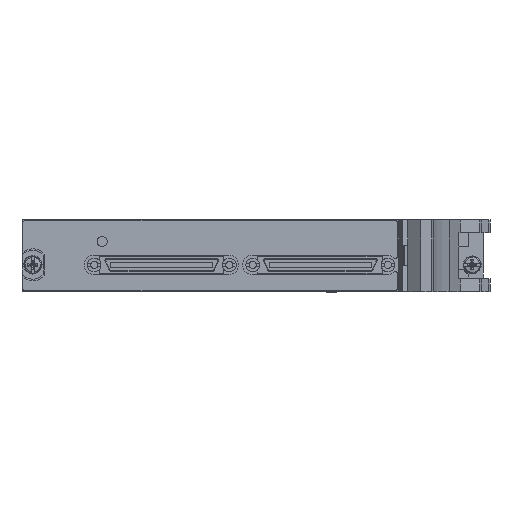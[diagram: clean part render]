
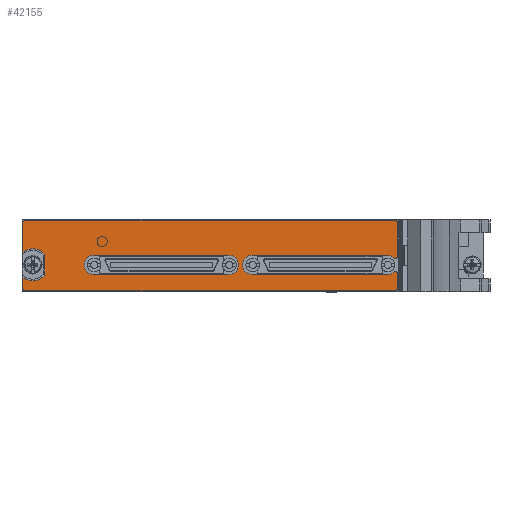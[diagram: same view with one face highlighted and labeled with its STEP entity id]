
A CAD part, left-side view. The second image highlights one B-rep face of the part: STEP entity #42155.
In plain terms, the highlighted planar face has unit normal (-1, 0, 0).
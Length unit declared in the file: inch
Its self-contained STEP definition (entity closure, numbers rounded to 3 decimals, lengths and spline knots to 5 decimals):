
#12530=CARTESIAN_POINT('',(-0.215,-3.53769,0.11025));
#12531=DIRECTION('',(-1.,0.,0.));
#12532=DIRECTION('',(0.,-1.,0.));
#12533=AXIS2_PLACEMENT_3D('',#12530,#12531,#12532);
#12535=DIRECTION('',(0.,0.,1.));
#12536=VECTOR('',#12535,0.17325);
#12537=CARTESIAN_POINT('',(-0.215,-3.55769,-0.063));
#12538=LINE('',#12537,#12536);
#12539=CARTESIAN_POINT('',(-0.215,-3.53769,-0.063));
#12540=DIRECTION('',(-1.,0.,0.));
#12541=DIRECTION('',(0.,0.,-1.));
#12542=AXIS2_PLACEMENT_3D('',#12539,#12540,#12541);
#12544=DIRECTION('',(0.,-1.,0.));
#12545=VECTOR('',#12544,4.07);
#12546=CARTESIAN_POINT('',(-0.215,0.53231,-0.083));
#12547=LINE('',#12546,#12545);
#12548=CARTESIAN_POINT('',(-0.215,0.53231,-0.063));
#12549=DIRECTION('',(-1.,0.,0.));
#12550=DIRECTION('',(0.,1.,0.));
#12551=AXIS2_PLACEMENT_3D('',#12548,#12549,#12550);
#12553=DIRECTION('',(0.,0.,-1.));
#12554=VECTOR('',#12553,0.1263);
#12555=CARTESIAN_POINT('',(-0.215,0.55231,0.0633));
#12556=LINE('',#12555,#12554);
#12557=CARTESIAN_POINT('',(-0.215,0.44431,0.201));
#12558=DIRECTION('',(1.,0.,0.));
#12559=DIRECTION('',(0.,-0.76,-0.65));
#12560=AXIS2_PLACEMENT_3D('',#12557,#12558,#12559);
#12562=DIRECTION('',(0.,0.,-1.));
#12563=VECTOR('',#12562,0.22747);
#12564=CARTESIAN_POINT('',(-0.215,0.31131,0.31474));
#12565=LINE('',#12564,#12563);
#12566=CARTESIAN_POINT('',(-0.215,0.44431,0.201));
#12567=DIRECTION('',(1.,0.,0.));
#12568=DIRECTION('',(0.,0.617,0.787));
#12569=AXIS2_PLACEMENT_3D('',#12566,#12567,#12568);
#12571=DIRECTION('',(0.,0.,-1.));
#12572=VECTOR('',#12571,0.3263);
#12573=CARTESIAN_POINT('',(-0.215,0.55231,0.665));
#12574=LINE('',#12573,#12572);
#12575=CARTESIAN_POINT('',(-0.215,0.53231,0.665));
#12576=DIRECTION('',(-1.,0.,0.));
#12577=DIRECTION('',(0.,0.,1.));
#12578=AXIS2_PLACEMENT_3D('',#12575,#12576,#12577);
#12580=DIRECTION('',(0.,1.,0.));
#12581=VECTOR('',#12580,4.07);
#12582=CARTESIAN_POINT('',(-0.215,-3.53769,0.685));
#12583=LINE('',#12582,#12581);
#12584=CARTESIAN_POINT('',(-0.215,-3.53769,0.665));
#12585=DIRECTION('',(-1.,0.,0.));
#12586=DIRECTION('',(0.,-1.,0.));
#12587=AXIS2_PLACEMENT_3D('',#12584,#12585,#12586);
#12589=DIRECTION('',(0.,0.,1.));
#12590=VECTOR('',#12589,0.37566);
#12591=CARTESIAN_POINT('',(-0.215,-3.55769,0.28934));
#12592=LINE('',#12591,#12590);
#12593=CARTESIAN_POINT('',(-0.215,-3.53769,0.28934));
#12594=DIRECTION('',(-1.,0.,0.));
#12595=DIRECTION('',(0.,0.704,-0.711));
#12596=AXIS2_PLACEMENT_3D('',#12593,#12594,#12595);
#12598=CARTESIAN_POINT('',(-0.215,-3.44905,0.1998));
#12599=DIRECTION('',(-1.,0.,0.));
#12600=DIRECTION('',(0.,-0.704,0.711));
#12601=AXIS2_PLACEMENT_3D('',#12598,#12599,#12600);
#12603=DIRECTION('',(0.,1.,0.));
#12604=VECTOR('',#12603,1.48403);
#12605=CARTESIAN_POINT('',(-0.215,-3.44905,0.3058));
#12606=LINE('',#12605,#12604);
#12607=CARTESIAN_POINT('',(-0.215,-1.96501,0.1998));
#12608=DIRECTION('',(-1.,0.,0.));
#12609=DIRECTION('',(0.,0.,1.));
#12610=AXIS2_PLACEMENT_3D('',#12607,#12608,#12609);
#12612=DIRECTION('',(0.,-1.,0.));
#12613=VECTOR('',#12612,1.48403);
#12614=CARTESIAN_POINT('',(-0.215,-1.96501,0.0938));
#12615=LINE('',#12614,#12613);
#12616=CARTESIAN_POINT('',(-0.215,-3.44905,0.1998));
#12617=DIRECTION('',(-1.,0.,0.));
#12618=DIRECTION('',(0.,0.,-1.));
#12619=AXIS2_PLACEMENT_3D('',#12616,#12617,#12618);
#12621=CARTESIAN_POINT('',(-0.215,-0.22391,0.1998));
#12622=DIRECTION('',(-1.,0.,0.));
#12623=DIRECTION('',(0.,0.,1.));
#12624=AXIS2_PLACEMENT_3D('',#12621,#12622,#12623);
#12626=DIRECTION('',(0.,-1.,0.));
#12627=VECTOR('',#12626,1.484);
#12628=CARTESIAN_POINT('',(-0.215,-0.22391,0.0938));
#12629=LINE('',#12628,#12627);
#12630=CARTESIAN_POINT('',(-0.215,-1.70791,0.1998));
#12631=DIRECTION('',(-1.,0.,0.));
#12632=DIRECTION('',(0.,0.,-1.));
#12633=AXIS2_PLACEMENT_3D('',#12630,#12631,#12632);
#12635=DIRECTION('',(0.,1.,0.));
#12636=VECTOR('',#12635,1.484);
#12637=CARTESIAN_POINT('',(-0.215,-1.70791,0.3058));
#12638=LINE('',#12637,#12636);
#24957=CARTESIAN_POINT('',(-0.215,0.53231,0.685));
#24958=CARTESIAN_POINT('',(-0.215,0.55231,0.665));
#24959=VERTEX_POINT('',#24957);
#24960=VERTEX_POINT('',#24958);
#24961=CARTESIAN_POINT('',(-0.215,0.55231,0.3387));
#24962=VERTEX_POINT('',#24961);
#24963=CARTESIAN_POINT('',(-0.215,0.31131,0.31474));
#24964=VERTEX_POINT('',#24963);
#24965=CARTESIAN_POINT('',(-0.215,0.31131,0.08726));
#24966=VERTEX_POINT('',#24965);
#24967=CARTESIAN_POINT('',(-0.215,0.55231,0.0633));
#24968=VERTEX_POINT('',#24967);
#24969=CARTESIAN_POINT('',(-0.215,0.55231,-0.063));
#24970=VERTEX_POINT('',#24969);
#24971=CARTESIAN_POINT('',(-0.215,0.53231,-0.083));
#24972=VERTEX_POINT('',#24971);
#24973=CARTESIAN_POINT('',(-0.215,-3.53769,-0.083));
#24974=VERTEX_POINT('',#24973);
#24975=CARTESIAN_POINT('',(-0.215,-3.55769,-0.063));
#24976=VERTEX_POINT('',#24975);
#24977=CARTESIAN_POINT('',(-0.215,-3.55769,0.665));
#24978=CARTESIAN_POINT('',(-0.215,-3.53769,0.685));
#24979=VERTEX_POINT('',#24977);
#24980=VERTEX_POINT('',#24978);
#24981=CARTESIAN_POINT('',(-0.215,-0.22391,0.3058));
#24982=CARTESIAN_POINT('',(-0.215,-0.22391,0.0938));
#24983=VERTEX_POINT('',#24981);
#24984=VERTEX_POINT('',#24982);
#24985=CARTESIAN_POINT('',(-0.215,-1.70791,0.0938));
#24986=VERTEX_POINT('',#24985);
#24987=CARTESIAN_POINT('',(-0.215,-1.70791,0.3058));
#24988=VERTEX_POINT('',#24987);
#24989=CARTESIAN_POINT('',(-0.215,-1.96501,0.3058));
#24990=CARTESIAN_POINT('',(-0.215,-1.96501,0.0938));
#24991=VERTEX_POINT('',#24989);
#24992=VERTEX_POINT('',#24990);
#24993=CARTESIAN_POINT('',(-0.215,-3.44905,0.0938));
#24994=VERTEX_POINT('',#24993);
#24995=CARTESIAN_POINT('',(-0.215,-3.44905,0.3058));
#24996=VERTEX_POINT('',#24995);
#24997=CARTESIAN_POINT('',(-0.215,-3.55769,0.11025));
#24998=CARTESIAN_POINT('',(-0.215,-3.52362,0.12446));
#24999=VERTEX_POINT('',#24997);
#25000=VERTEX_POINT('',#24998);
#25001=CARTESIAN_POINT('',(-0.215,-3.52362,0.27513));
#25002=CARTESIAN_POINT('',(-0.215,-3.55769,0.28934));
#25003=VERTEX_POINT('',#25001);
#25004=VERTEX_POINT('',#25002);
#42118=CARTESIAN_POINT('',(-0.215,0.44431,0.201));
#42119=DIRECTION('',(-1.,0.,0.));
#42120=DIRECTION('',(0.,0.,1.));
#42121=AXIS2_PLACEMENT_3D('',#42118,#42119,#42120);
#42122=PLANE('',#42121);
#42123=ORIENTED_EDGE('',*,*,#41987,.F.);
#42124=ORIENTED_EDGE('',*,*,#42001,.F.);
#42125=ORIENTED_EDGE('',*,*,#42015,.F.);
#42126=ORIENTED_EDGE('',*,*,#42029,.F.);
#42127=ORIENTED_EDGE('',*,*,#42043,.F.);
#42128=ORIENTED_EDGE('',*,*,#42057,.F.);
#42129=ORIENTED_EDGE('',*,*,#42071,.F.);
#42130=ORIENTED_EDGE('',*,*,#42085,.F.);
#42131=ORIENTED_EDGE('',*,*,#42099,.F.);
#42132=ORIENTED_EDGE('',*,*,#42112,.F.);
#42133=ORIENTED_EDGE('',*,*,#41846,.F.);
#42134=ORIENTED_EDGE('',*,*,#41861,.F.);
#42135=ORIENTED_EDGE('',*,*,#41875,.F.);
#42136=ORIENTED_EDGE('',*,*,#41889,.F.);
#42137=ORIENTED_EDGE('',*,*,#41903,.F.);
#42138=ORIENTED_EDGE('',*,*,#41917,.T.);
#42139=ORIENTED_EDGE('',*,*,#41931,.T.);
#42140=ORIENTED_EDGE('',*,*,#41945,.T.);
#42141=ORIENTED_EDGE('',*,*,#41959,.T.);
#42142=ORIENTED_EDGE('',*,*,#41973,.T.);
#42143=EDGE_LOOP('',(#42123,#42124,#42125,#42126,#42127,#42128,#42129,#42130,
#42131,#42132,#42133,#42134,#42135,#42136,#42137,#42138,#42139,#42140,#42141,
#42142));
#42144=FACE_OUTER_BOUND('',#42143,.F.);
#42146=ORIENTED_EDGE('',*,*,#42145,.T.);
#42148=ORIENTED_EDGE('',*,*,#42147,.T.);
#42150=ORIENTED_EDGE('',*,*,#42149,.T.);
#42152=ORIENTED_EDGE('',*,*,#42151,.T.);
#42153=EDGE_LOOP('',(#42146,#42148,#42150,#42152));
#42154=FACE_BOUND('',#42153,.F.);
#42155=ADVANCED_FACE('',(#42144,#42154),#42122,.T.);
#12534=CIRCLE('',#12533,0.02);
#12543=CIRCLE('',#12542,0.02);
#12552=CIRCLE('',#12551,0.02);
#12561=CIRCLE('',#12560,0.175);
#12570=CIRCLE('',#12569,0.175);
#12579=CIRCLE('',#12578,0.02);
#12588=CIRCLE('',#12587,0.02);
#12597=CIRCLE('',#12596,0.02);
#12602=CIRCLE('',#12601,0.106);
#12611=CIRCLE('',#12610,0.106);
#12620=CIRCLE('',#12619,0.106);
#12625=CIRCLE('',#12624,0.106);
#12634=CIRCLE('',#12633,0.106);
#41846=EDGE_CURVE('',#24959,#24960,#12579,.T.);
#41861=EDGE_CURVE('',#24980,#24959,#12583,.T.);
#41875=EDGE_CURVE('',#24979,#24980,#12588,.T.);
#41889=EDGE_CURVE('',#25004,#24979,#12592,.T.);
#41903=EDGE_CURVE('',#25003,#25004,#12597,.T.);
#41917=EDGE_CURVE('',#25003,#24996,#12602,.T.);
#41931=EDGE_CURVE('',#24996,#24991,#12606,.T.);
#41945=EDGE_CURVE('',#24991,#24992,#12611,.T.);
#41959=EDGE_CURVE('',#24992,#24994,#12615,.T.);
#41973=EDGE_CURVE('',#24994,#25000,#12620,.T.);
#41987=EDGE_CURVE('',#24999,#25000,#12534,.T.);
#42001=EDGE_CURVE('',#24976,#24999,#12538,.T.);
#42015=EDGE_CURVE('',#24974,#24976,#12543,.T.);
#42029=EDGE_CURVE('',#24972,#24974,#12547,.T.);
#42043=EDGE_CURVE('',#24970,#24972,#12552,.T.);
#42057=EDGE_CURVE('',#24968,#24970,#12556,.T.);
#42071=EDGE_CURVE('',#24966,#24968,#12561,.T.);
#42085=EDGE_CURVE('',#24964,#24966,#12565,.T.);
#42099=EDGE_CURVE('',#24962,#24964,#12570,.T.);
#42112=EDGE_CURVE('',#24960,#24962,#12574,.T.);
#42145=EDGE_CURVE('',#24983,#24984,#12625,.T.);
#42147=EDGE_CURVE('',#24984,#24986,#12629,.T.);
#42149=EDGE_CURVE('',#24986,#24988,#12634,.T.);
#42151=EDGE_CURVE('',#24988,#24983,#12638,.T.);
